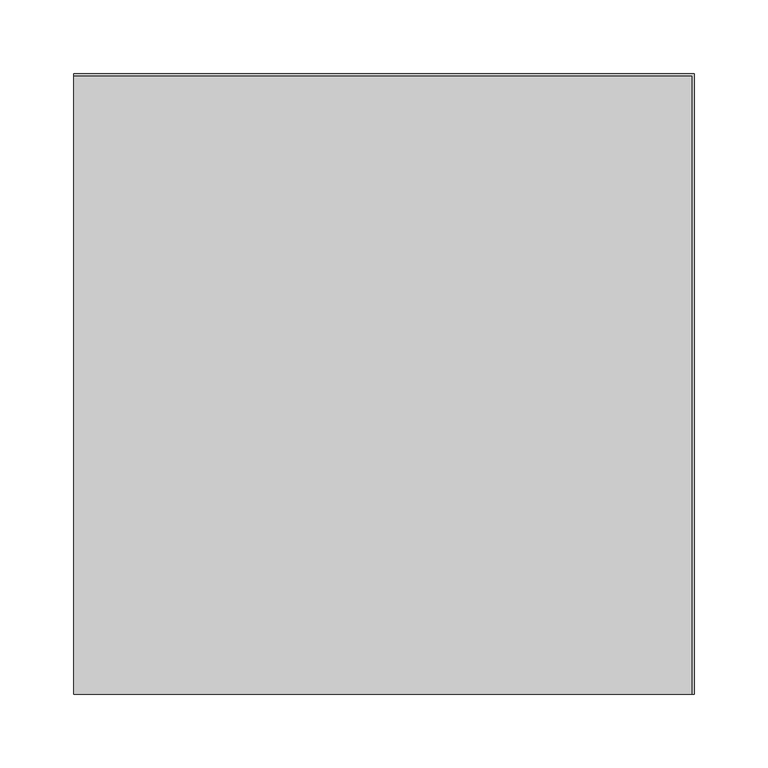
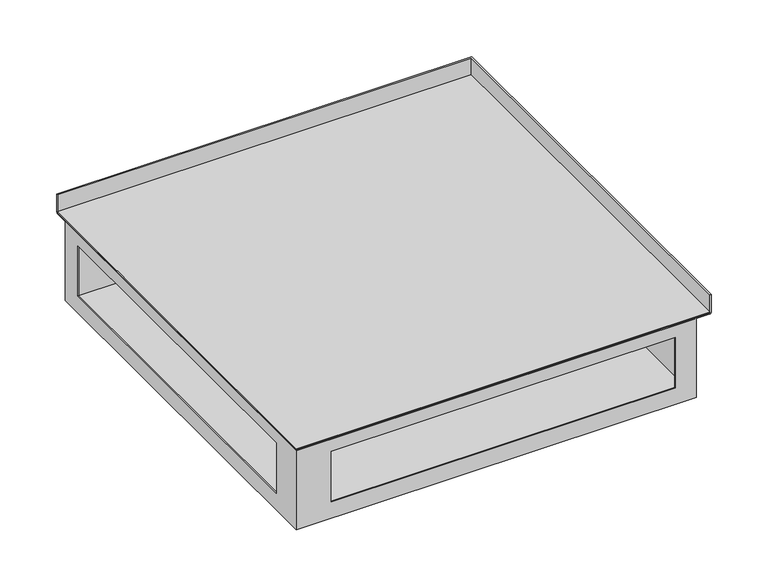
"""IFC4 building model written with IfcOpenShell, lengths in millimetres: proxy geometry, TECHNO_Угловой элемент_KVU : 420_105_90°."""

from ifc_helpers import new_model, si_unit, frame, origin, place, context, project, spatial, polyline, circle_curve, ellipse_curve, outline, extrude, source, transform, mapped, element, save
from ifc_brep_helpers import plane_surface, cylinder_surface, advanced_brep


def mechanical_equipment_021ceee1(model_context):
    return source(origin(), model_context, "Body", "SolidModel", [
        extrude(outline(polyline([(0.0, 208.8), (418.8, 208.8), (418.8, -210.0), (0.0, -210.0), (0.0, 208.8)])), frame((0.0, 0.0, -19.3), z_axis=(0.0, 0.0, 1.0), x_axis=(1.0, 0.0, 0.0)), (0.0, 0.0, 1.0), 1.2),
        advanced_brep(
        [(1.2, 194.0, -103.8), (1.2, -208.8, -103.8), (404.0, -208.8, -103.8), (404.0, 194.0, -103.8), (0.0, 195.2, -105.0), (405.2, 195.2, -105.0), (405.2, -210.0, -105.0), (0.0, -210.0, -105.0), (0.0, 195.2, -20.5), (0.0, -210.0, -20.5), (0.0, 194.0, -20.5), (0.0, 195.2, -19.3), (0.0, 208.8, -19.3), (0.0, 208.8, 0.0), (0.0, 210.0, 0.0), (0.0, 210.0, -19.3), (0.0, 208.8, -20.5), (0.0, -174.5, -33.5), (0.0, -174.5, -87.5), (0.0, 173.9, -87.5), (0.0, 173.9, -33.5), (405.2, -210.0, -20.5), (418.8, -210.0, -20.5), (420.0, -210.0, -19.3), (420.0, -210.0, 0.0), (418.8, -210.0, 0.0), (418.8, -210.0, -19.3), (405.2, -210.0, -19.3), (404.0, -210.0, -20.5), (35.5, -210.0, -87.5), (35.5, -210.0, -33.5), (383.9, -210.0, -33.5), (383.9, -210.0, -87.5), (405.2, 195.2, -20.5), (1.2, 195.2, -19.3), (1.2, -208.8, -19.3), (405.2, -208.8, -19.3), (418.8, 208.8, -19.3), (405.2, -194.0, -19.3), (16.0, -194.0, -19.3), (16.0, 195.2, -19.3), (405.2, 195.2, -19.3), (16.0, -194.0, -20.5), (16.0, 194.0, -20.5), (404.0, -194.0, -20.5), (404.0, -208.8, -20.5), (1.2, -208.8, -20.5), (1.2, 194.0, -20.5), (1.2, -174.5, -87.5), (1.2, -174.5, -33.5), (1.2, 173.9, -33.5), (1.2, 173.9, -87.5), (35.5, -208.8, -33.5), (35.5, -208.8, -87.5), (383.9, -208.8, -87.5), (383.9, -208.8, -33.5), (420.0, 210.0, -19.3), (420.0, 210.0, 0.0), (418.8, 208.8, 0.0), (418.8, 208.8, -20.5), (404.0, 194.0, -20.5)],
        [
            (0, 1),
            (1, 2),
            (2, 3),
            (3, 0),
            (4, 5),
            (5, 6),
            (6, 7),
            (7, 4),
            (8, 4),
            (7, 9),
            (9, 10),
            (10, 11, circle_curve(frame((0.0, 195.2, -20.5), z_axis=(-1.0, 0.0, 0.0), x_axis=(0.0, -1.0, 0.0)), 1.2)),
            (11, 12),
            (12, 13),
            (13, 14),
            (14, 15),
            (15, 16, circle_curve(frame((0.0, 208.8, -19.3), z_axis=(-1.0, 0.0, 0.0), x_axis=(0.0, -1.0, 0.0)), 1.2)),
            (16, 8),
            (17, 18),
            (18, 19),
            (19, 20),
            (20, 17),
            (6, 21),
            (21, 22),
            (22, 23, circle_curve(frame((418.8, -210.0, -19.3), z_axis=(0.0, -1.0, 0.0), x_axis=(-1.0, 0.0, 0.0)), 1.2)),
            (23, 24),
            (24, 25),
            (25, 26),
            (26, 27),
            (27, 28, circle_curve(frame((405.2, -210.0, -20.5), z_axis=(0.0, -1.0, 0.0), x_axis=(-1.0, 0.0, 0.0)), 1.2)),
            (28, 9),
            (29, 30),
            (30, 31),
            (31, 32),
            (32, 29),
            (8, 33),
            (33, 5),
            (33, 21),
            (34, 35),
            (35, 36),
            (36, 27),
            (26, 37),
            (37, 12),
            (11, 34),
            (38, 39),
            (39, 40),
            (40, 41),
            (41, 38),
            (39, 42),
            (42, 43),
            (43, 40, circle_curve(frame((16.0, 195.2, -20.5), z_axis=(-1.0, 0.0, 0.0), x_axis=(0.0, -1.0, 0.0)), 1.2)),
            (38, 44, circle_curve(frame((405.2, -194.0, -20.5), z_axis=(0.0, -1.0, 0.0), x_axis=(-1.0, 0.0, 0.0)), 1.2)),
            (44, 42),
            (44, 45),
            (45, 46),
            (46, 47),
            (47, 43),
            (46, 1),
            (0, 47),
            (48, 49),
            (49, 50),
            (50, 51),
            (51, 48),
            (45, 2),
            (52, 53),
            (53, 54),
            (54, 55),
            (55, 52),
            (34, 10, ellipse_curve(frame((1.2, 195.2, -20.5), z_axis=(0.7071067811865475, -0.7071067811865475, 0.0), x_axis=(0.7071067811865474, 0.7071067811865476, 0.0)), 1.6970563, 1.2)),
            (9, 35, ellipse_curve(frame((1.2, -208.8, -20.5), z_axis=(-0.7071067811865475, 0.7071067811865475, 0.0), x_axis=(0.7071067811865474, 0.7071067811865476, 0.0)), 1.6970563, 1.2)),
            (28, 36, ellipse_curve(frame((405.2, -208.8, -20.5), z_axis=(-0.7071067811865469, 0.7071067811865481, 0.0), x_axis=(-0.7071067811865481, -0.7071067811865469, 0.0)), 1.6970563, 1.2)),
            (23, 56),
            (56, 57),
            (57, 24),
            (57, 14),
            (13, 58),
            (58, 25),
            (58, 37),
            (16, 59),
            (59, 22),
            (59, 56, ellipse_curve(frame((418.8, 208.8, -19.3), z_axis=(0.7071067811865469, -0.7071067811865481, 0.0), x_axis=(-0.7071067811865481, -0.7071067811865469, 0.0)), 1.6970563, 1.2)),
            (56, 15),
            (41, 60, ellipse_curve(frame((405.2, 195.2, -20.5), z_axis=(0.7071067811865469, -0.7071067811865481, 0.0), x_axis=(-0.7071067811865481, -0.7071067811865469, 0.0)), 1.6970563, 1.2)),
            (60, 44),
            (60, 3),
            (43, 60),
            (48, 18),
            (17, 49),
            (51, 19),
            (50, 20),
            (52, 30),
            (29, 53),
            (55, 31),
            (54, 32),
        ],
        [
            plane_surface(frame((0.0, 194.0, -103.8), z_axis=(0.0, 0.0, 1.0), x_axis=(0.0, -1.0, 0.0))),
            plane_surface(frame((0.0, 194.0, -105.0), z_axis=(0.0, 0.0, -1.0), x_axis=(0.0, 1.0, 0.0))),
            plane_surface(frame((0.0, 194.0, -103.8), z_axis=(-1.0, 0.0, 0.0), x_axis=(0.0, 0.0, -1.0))),
            plane_surface(frame((0.0, -210.0, -103.8), z_axis=(0.0, -1.0, 0.0), x_axis=(0.0, 0.0, -1.0))),
            plane_surface(frame((0.0, 195.2, -105.0), z_axis=(0.0, 1.0, 0.0), x_axis=(0.0, 0.0, -1.0))),
            plane_surface(frame((405.2, -210.0, -105.0), z_axis=(1.0, 0.0, 0.0), x_axis=(0.0, 0.0, -1.0))),
            plane_surface(frame((1.2, 195.2, -19.3), z_axis=(0.0, 0.0, 1.0), x_axis=(0.0, -1.0, 0.0))),
            plane_surface(frame((16.0, 195.2, -19.3), z_axis=(1.0, 0.0, 0.0), x_axis=(0.0, -1.0, 0.0))),
            plane_surface(frame((16.0, -194.0, -19.3), z_axis=(0.0, 1.0, 0.0), x_axis=(1.0, 0.0, 0.0))),
            plane_surface(frame((16.0, 195.2, -20.5), z_axis=(0.0, 0.0, -1.0), x_axis=(0.0, -1.0, 0.0))),
            plane_surface(frame((1.2, 195.2, -20.5), z_axis=(1.0, 0.0, 0.0), x_axis=(0.0, -1.0, 0.0))),
            plane_surface(frame((1.2, -208.8, -20.5), z_axis=(0.0, 1.0, 0.0), x_axis=(1.0, 0.0, 0.0))),
            cylinder_surface(frame((1.2, 195.2, -20.5), z_axis=(0.0, 1.0, 0.0), x_axis=(-1.0, 0.0, 0.0)), 1.2),
            cylinder_surface(frame((0.0, -208.8, -20.5), z_axis=(-1.0, 0.0, 0.0), x_axis=(0.0, -1.0, 0.0)), 1.2),
            plane_surface(frame((420.0, -210.0, -19.3), z_axis=(1.0, 0.0, 0.0), x_axis=(0.0, 1.0, 0.0))),
            plane_surface(frame((420.0, -210.0, 0.0), z_axis=(0.0, 0.0, 1.0), x_axis=(0.0, 1.0, 0.0))),
            plane_surface(frame((418.8, -210.0, 0.0), z_axis=(-1.0, 0.0, 0.0), x_axis=(0.0, 1.0, 0.0))),
            plane_surface(frame((405.2, -210.0, -20.5), z_axis=(0.0, 0.0, -1.0), x_axis=(0.0, 1.0, 0.0))),
            cylinder_surface(frame((418.8, -210.0, -19.3), z_axis=(0.0, -1.0, 0.0), x_axis=(-1.0, 0.0, 0.0)), 1.2),
            plane_surface(frame((420.0, 210.0, -19.3), z_axis=(0.0, 1.0, 0.0), x_axis=(-1.0, 0.0, 0.0))),
            plane_surface(frame((418.8, 208.8, 0.0), z_axis=(0.0, -1.0, 0.0), x_axis=(-1.0, 0.0, 0.0))),
            cylinder_surface(frame((210.0, 208.8, -19.3), z_axis=(1.0, 0.0, 0.0), x_axis=(0.0, -1.0, 0.0)), 1.2),
            cylinder_surface(frame((405.2, -210.0, -20.5), z_axis=(0.0, -1.0, 0.0), x_axis=(-1.0, 0.0, 0.0)), 1.2),
            plane_surface(frame((404.0, -210.0, -20.5), z_axis=(-1.0, 0.0, 0.0), x_axis=(0.0, 1.0, 0.0))),
            cylinder_surface(frame((210.0, 195.2, -20.5), z_axis=(1.0, 0.0, 0.0), x_axis=(0.0, -1.0, 0.0)), 1.2),
            plane_surface(frame((404.0, 194.0, -20.5), z_axis=(0.0, -1.0, 0.0), x_axis=(-1.0, 0.0, 0.0))),
            plane_surface(frame((1.2, -174.5, -33.5), z_axis=(0.0, 1.0, 0.0), x_axis=(-1.0, 0.0, 0.0))),
            plane_surface(frame((1.2, -174.5, -87.5), z_axis=(0.0, 0.0, 1.0), x_axis=(-1.0, 0.0, 0.0))),
            plane_surface(frame((1.2, 173.9, -87.5), z_axis=(0.0, -1.0, 0.0), x_axis=(-1.0, 0.0, 0.0))),
            plane_surface(frame((1.2, 173.9, -33.5), z_axis=(0.0, 0.0, -1.0), x_axis=(-1.0, 0.0, 0.0))),
            plane_surface(frame((35.5, -208.8, -87.5), z_axis=(1.0, 0.0, 0.0), x_axis=(0.0, -1.0, 0.0))),
            plane_surface(frame((35.5, -208.8, -33.5), z_axis=(0.0, 0.0, -1.0), x_axis=(0.0, -1.0, 0.0))),
            plane_surface(frame((383.9, -208.8, -33.5), z_axis=(-1.0, 0.0, 0.0), x_axis=(0.0, -1.0, 0.0))),
            plane_surface(frame((383.9, -208.8, -87.5), z_axis=(0.0, 0.0, 1.0), x_axis=(0.0, -1.0, 0.0))),
        ],
        [
            (0, [[1, 2, 3, 4]]),
            (1, [[5, 6, 7, 8]]),
            (2, [[9, -8, 10, 11, 12, 13, 14, 15, 16, 17, 18], [19, 20, 21, 22]]),
            (3, [[23, 24, 25, 26, 27, 28, 29, 30, 31, -10, -7], [32, 33, 34, 35]]),
            (4, [[-9, 36, 37, -5]]),
            (5, [[-23, -6, -37, 38]]),
            (6, [[39, 40, 41, -29, 42, 43, -13, 44], [45, 46, 47, 48]]),
            (7, [[-46, 49, 50, 51]]),
            (8, [[-45, 52, 53, -49]]),
            (9, [[-50, -53, 54, 55, 56, 57]]),
            (10, [[58, -1, 59, -56], [60, 61, 62, 63]]),
            (11, [[-58, -55, 64, -2], [65, 66, 67, 68]]),
            (12, [[-39, 69, -11, 70]]),
            (13, [[-40, -70, -31, 71]]),
            (14, [[-26, 72, 73, 74]]),
            (15, [[-27, -74, 75, -15, 76, 77]]),
            (16, [[-28, -77, 78, -42]]),
            (17, [[-24, -38, -36, -18, 79, 80]]),
            (18, [[-25, -80, 81, -72]]),
            (19, [[-73, 82, -16, -75]]),
            (20, [[-76, -14, -43, -78]]),
            (21, [[-79, -17, -82, -81]]),
            (22, [[-30, -41, -71]]),
            (22, [[83, 84, -52, -48]]),
            (23, [[85, -3, -64, -54, -84]]),
            (24, [[-12, -69, -44]]),
            (24, [[-83, -47, -51, 86]]),
            (25, [[-85, -86, -57, -59, -4]]),
            (26, [[87, -19, 88, -60]]),
            (27, [[-87, -63, 89, -20]]),
            (28, [[-89, -62, 90, -21]]),
            (29, [[-88, -22, -90, -61]]),
            (30, [[91, -32, 92, -65]]),
            (31, [[-91, -68, 93, -33]]),
            (32, [[-93, -67, 94, -34]]),
            (33, [[-92, -35, -94, -66]]),
        ],
    ),
    ])


if __name__ == "__main__":
    model = new_model("IFC4")
    model_context = context("Model", 3, world=origin())
    ifc_project = project(units=[si_unit("LENGTHUNIT", "METRE", prefix="MILLI")], contexts=[model_context])
    site = spatial("IfcSite", under=ifc_project)
    building = spatial("IfcBuilding", under=site)
    placement = place(None, origin())
    mechanical_equipment_shape = mechanical_equipment_021ceee1(model_context)
    element("IfcBuildingElementProxy", 1, Name="TECHNO_Угловой элемент_KVU : 420_105_90°", ObjectType="TECHNO_Угловой элемент_KVU : 420_105_90°", at=placement, inside=building, context=model_context, shape_type="MappedRepresentation", body=[
        mapped(mechanical_equipment_shape, transform((0.0, 0.0, 0.0), x_axis=(1.0, 0.0, 0.0), y_axis=(0.0, 1.0, 0.0), z_axis=(0.0, 0.0, 1.0))),
    ])
    save(model, "model.ifc")
